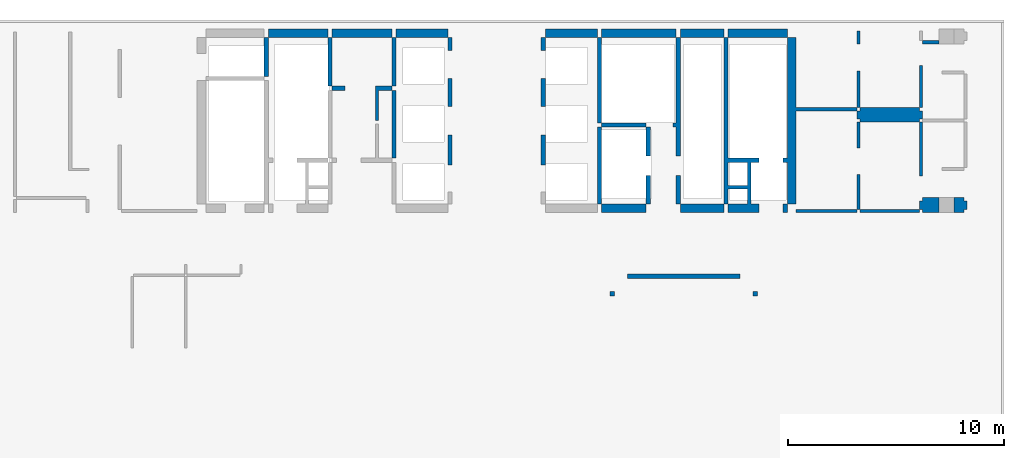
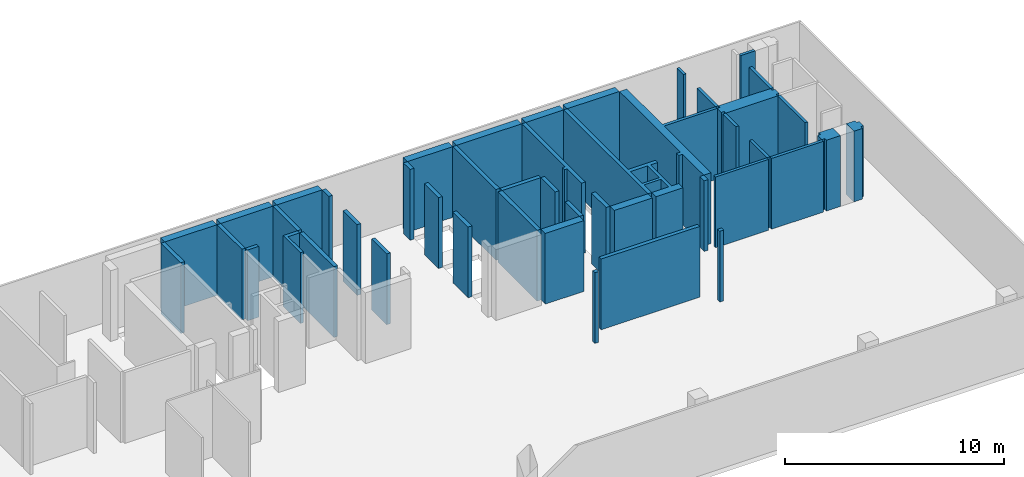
# One storey, part 2 of 4: 46 walls.
"""IFC4 building model written with IfcOpenShell, lengths in millimetres."""

from ifc_helpers import new_model, si_unit, frame, origin, place, context, project, spatial, triangles, element, save


model = new_model("IFC4")

# Units and contexts
model_context = context("Model", 3, precision=0.001, world=origin())
ifc_project = project(units=[si_unit("LENGTHUNIT", "METRE", prefix="MILLI"), si_unit("AREAUNIT", "SQUARE_METRE"), si_unit("VOLUMEUNIT", "CUBIC_METRE")], contexts=[model_context])

# Site, building, storey
site_placement = place(None, origin())
site = spatial("IfcSite", under=ifc_project, at=site_placement, Name="Site", CompositionType="ELEMENT")
building_placement = place(site_placement, origin())
building = spatial("IfcBuilding", under=site, at=building_placement, Name="INNOCEAN", CompositionType="ELEMENT")
storey_placement = place(building_placement, frame((0.0, 0.0, 51200.0)))
storey = spatial("IfcBuildingStorey", under=building, at=storey_placement, Name="F12", CompositionType="ELEMENT", Elevation=51200.0)

# Walls
wall_1_placement = place(storey_placement, origin())
element("IfcWall", 1, at=wall_1_placement, inside=storey, Name="F12_Walls_F12_022", context=model_context, shape_type="Tessellation", body=[
    triangles([(16226.2, 25025.8, 0.0), (16226.2, 23222.2, 0.0), (16226.2, 23222.2, 3950.0), (16226.2, 25025.8, 3950.0), (16429.3, 25025.8, 0.0), (16429.3, 25025.8, 3950.0), (16429.3, 23222.2, 0.0), (16429.3, 23222.2, 3950.0)], [[1, 2, 3], [1, 3, 4], [5, 1, 4], [5, 4, 6], [7, 5, 6], [7, 6, 8], [2, 7, 8], [2, 8, 3], [1, 5, 7], [1, 7, 2], [6, 4, 8], [8, 4, 3]], closed=True),
])
wall_2_placement = place(storey_placement, origin())
element("IfcWall", 2, at=wall_2_placement, inside=storey, Name="F12_Walls_F12_025", context=model_context, shape_type="Tessellation", body=[
    triangles([(19183.7, 25025.8, 0.0), (19183.7, 25419.5, 0.0), (19183.7, 25419.5, 3950.0), (19183.7, 25025.8, 3950.0), (16429.3, 25025.8, 0.0), (16429.3, 25025.8, 3950.0), (16429.3, 25419.5, 0.0), (16429.3, 25419.5, 3950.0)], [[1, 2, 3], [1, 3, 4], [5, 1, 4], [5, 4, 6], [7, 5, 6], [7, 6, 8], [2, 7, 8], [2, 8, 3], [7, 2, 1], [7, 1, 5], [3, 8, 4], [4, 8, 6]], closed=True),
])
wall_3_placement = place(storey_placement, origin())
element("IfcWall", 3, at=wall_3_placement, inside=storey, Name="F12_Walls_F12_026", context=model_context, shape_type="Tessellation", body=[
    triangles([(32422.7, 13073.9, 0.0), (32422.7, 13277.1, 0.0), (32422.7, 13277.1, 3950.0), (32422.7, 13073.9, 3950.0), (32219.6, 13073.9, 3950.0), (32219.6, 13073.9, 0.0), (32219.6, 13277.1, 0.0), (32219.6, 13277.1, 3950.0)], [[1, 2, 3], [1, 3, 4], [1, 4, 5], [6, 1, 5], [7, 6, 5], [7, 5, 8], [7, 8, 3], [2, 7, 3], [7, 2, 1], [7, 1, 6], [3, 8, 4], [4, 8, 5]], closed=True),
])
wall_4_placement = place(storey_placement, origin())
element("IfcWall", 4, at=wall_4_placement, inside=storey, Name="F12_Walls_F12_032", context=model_context, shape_type="Tessellation", body=[
    triangles([(31826.2, 20872.5, 0.0), (31826.2, 20872.5, 3950.0), (31826.2, 17316.1, 3950.0), (31826.2, 17316.1, 0.0), (31623.1, 17316.1, 3950.0), (31623.1, 17316.1, 0.0), (31623.1, 20872.5, 3950.0), (31623.1, 20872.5, 0.0)], [[1, 2, 3], [4, 1, 3], [4, 3, 5], [6, 4, 5], [6, 5, 7], [8, 6, 7], [8, 7, 2], [1, 8, 2], [8, 1, 4], [8, 4, 6], [2, 7, 3], [3, 7, 5]], closed=True),
])
wall_5_placement = place(storey_placement, origin())
element("IfcWall", 5, at=wall_5_placement, inside=storey, Name="F12_Walls_F12_035", context=model_context, shape_type="Tessellation", body=[
    triangles([(29224.0, 20516.8, 0.0), (29224.0, 20516.8, 3950.0), (29224.0, 20515.0, 3950.0), (29224.0, 20515.0, 0.0), (29225.0, 20515.0, 0.0), (29225.0, 20515.0, 3950.0), (29225.0, 19120.0, 0.0), (29225.0, 19120.0, 3950.0), (29224.0, 19120.0, 0.0), (29224.0, 19120.0, 3950.0), (29224.0, 19119.7, 0.0), (29224.0, 19119.7, 3950.0), (29020.9, 19119.7, 0.0), (29020.9, 19119.7, 3950.0), (29020.9, 19120.0, 0.0), (29020.9, 19120.0, 3950.0), (29020.0, 19120.0, 0.0), (29020.0, 19120.0, 3950.0), (29020.0, 20515.0, 0.0), (29020.0, 20515.0, 3950.0), (29020.9, 20515.0, 0.0), (29020.9, 20515.0, 3950.0), (29020.9, 20516.8, 3950.0), (29020.9, 20516.8, 0.0)], [[1, 2, 3], [4, 1, 3], [5, 4, 3], [5, 3, 6], [7, 5, 6], [7, 6, 8], [9, 7, 8], [9, 8, 10], [11, 9, 10], [11, 10, 12], [13, 11, 12], [13, 12, 14], [15, 13, 14], [15, 14, 16], [17, 15, 16], [17, 16, 18], [19, 17, 18], [19, 18, 20], [21, 19, 20], [21, 20, 22], [21, 22, 23], [24, 21, 23], [1, 24, 23], [1, 23, 2], [15, 9, 11], [15, 11, 13], [4, 5, 7], [4, 7, 9], [4, 9, 15], [21, 4, 15], [19, 15, 17], [19, 21, 15], [24, 1, 4], [24, 4, 21], [10, 16, 12], [12, 16, 14], [6, 3, 8], [8, 3, 10], [10, 3, 16], [3, 22, 16], [16, 20, 18], [22, 20, 16], [2, 23, 3], [3, 23, 22]], closed=True),
])
wall_6_placement = place(storey_placement, origin())
element("IfcWall", 6, at=wall_6_placement, inside=storey, Name="F12_Walls_F12_036", context=model_context, shape_type="Tessellation", body=[
    triangles([(24730.0, 20515.0, 0.0), (24730.0, 19120.0, 0.0), (24730.0, 19120.0, 3950.0), (24730.0, 20515.0, 3950.0), (24730.6, 20515.0, 0.0), (24730.6, 20515.0, 3950.0), (24730.6, 20516.8, 3950.0), (24730.6, 20516.8, 0.0), (24921.0, 20516.8, 0.0), (24921.0, 20516.8, 3950.0), (24921.0, 19119.7, 0.0), (24921.0, 19119.7, 3950.0), (24730.6, 19119.7, 0.0), (24730.6, 19119.7, 3950.0), (24730.6, 19120.0, 0.0), (24730.6, 19120.0, 3950.0)], [[1, 2, 3], [1, 3, 4], [5, 1, 4], [5, 4, 6], [5, 6, 7], [8, 5, 7], [9, 8, 7], [9, 7, 10], [11, 9, 10], [11, 10, 12], [13, 11, 12], [13, 12, 14], [15, 13, 14], [15, 14, 16], [2, 15, 16], [2, 16, 3], [15, 11, 13], [5, 9, 11], [5, 11, 15], [1, 15, 2], [1, 5, 15], [8, 9, 5], [12, 16, 14], [10, 6, 12], [12, 6, 16], [16, 4, 3], [6, 4, 16], [10, 7, 6]], closed=True),
])
wall_7_placement = place(storey_placement, origin())
element("IfcWall", 7, at=wall_7_placement, inside=storey, Name="F12_Walls_F12_038", context=model_context, shape_type="Tessellation", body=[
    triangles([(22331.6, 19449.9, 0.0), (22331.6, 22574.4, 0.0), (22331.6, 22574.4, 3950.0), (22331.6, 19449.9, 3950.0), (22128.5, 19449.9, 0.0), (22128.5, 19449.9, 3950.0), (22128.5, 22574.4, 0.0), (22128.5, 22574.4, 3950.0)], [[1, 2, 3], [1, 3, 4], [5, 1, 4], [5, 4, 6], [7, 5, 6], [7, 6, 8], [2, 7, 8], [2, 8, 3], [2, 1, 5], [7, 2, 5], [4, 3, 6], [3, 8, 6]], closed=True),
])
wall_8_placement = place(storey_placement, origin())
element("IfcWall", 8, at=wall_8_placement, inside=storey, Name="F12_Walls_F12_039", context=model_context, shape_type="Tessellation", body=[
    triangles([(22128.5, 22765.0, 0.0), (21366.9, 22765.0, 0.0), (21366.9, 22765.0, 3950.0), (22128.5, 22765.0, 3950.0), (22128.5, 22574.4, 3950.0), (22128.5, 22574.4, 0.0), (21519.3, 22574.4, 0.0), (21519.3, 22574.4, 3950.0), (21519.3, 21177.3, 0.0), (21519.3, 21177.3, 3950.0), (21366.9, 21177.3, 0.0), (21366.9, 21177.3, 3950.0), (21366.9, 22574.4, 0.0), (21366.9, 22574.4, 3950.0)], [[1, 2, 3], [1, 3, 4], [1, 4, 5], [6, 1, 5], [7, 6, 5], [7, 5, 8], [9, 7, 8], [9, 8, 10], [11, 9, 10], [11, 10, 12], [13, 11, 12], [13, 12, 14], [13, 14, 3], [2, 13, 3], [7, 1, 6], [13, 7, 9], [13, 9, 11], [2, 1, 7], [2, 7, 13], [4, 8, 5], [8, 14, 10], [10, 14, 12], [4, 3, 8], [8, 3, 14]], closed=True),
])
wall_9_placement = place(storey_placement, origin())
element("IfcWall", 9, at=wall_9_placement, inside=storey, Name="F12_Walls_F12_040", context=model_context, shape_type="Tessellation", body=[
    triangles([(24920.0, 21825.0, 0.0), (24920.0, 21825.1, 0.0), (24920.0, 21825.1, 3950.0), (24920.0, 21825.0, 3950.0), (24730.0, 21825.0, 0.0), (24730.0, 21825.0, 3950.0), (24730.0, 23120.0, 3950.0), (24730.0, 23120.0, 0.0), (24730.6, 23120.0, 0.0), (24730.6, 23120.0, 3950.0), (24730.6, 23120.6, 0.0), (24730.6, 23120.6, 3950.0), (24921.0, 23120.6, 0.0), (24921.0, 23120.6, 3950.0), (24921.0, 21825.1, 0.0), (24921.0, 21825.1, 3950.0)], [[1, 2, 3], [1, 3, 4], [5, 1, 4], [5, 4, 6], [5, 6, 7], [8, 5, 7], [9, 8, 7], [9, 7, 10], [11, 9, 10], [11, 10, 12], [13, 11, 12], [13, 12, 14], [15, 13, 14], [15, 14, 16], [2, 15, 16], [2, 16, 3], [5, 2, 1], [13, 15, 2], [9, 13, 2], [9, 2, 5], [8, 9, 5], [11, 13, 9], [3, 6, 4], [16, 14, 3], [14, 10, 3], [3, 10, 6], [10, 7, 6], [14, 12, 10]], closed=True),
])
wall_10_placement = place(storey_placement, origin())
element("IfcWall", 10, at=wall_10_placement, inside=storey, Name="F12_Walls_F12_041", context=model_context, shape_type="Tessellation", body=[
    triangles([(29020.9, 23120.6, 0.0), (29020.9, 23120.0, 0.0), (29020.9, 23120.0, 3950.0), (29020.9, 23120.6, 3950.0), (29224.0, 23120.6, 0.0), (29224.0, 23120.6, 3950.0), (29224.0, 23120.0, 0.0), (29224.0, 23120.0, 3950.0), (29225.0, 23120.0, 0.0), (29225.0, 23120.0, 3950.0), (29225.0, 21825.0, 3950.0), (29225.0, 21825.0, 0.0), (29020.0, 21825.0, 0.0), (29020.0, 21825.0, 3950.0), (29020.0, 23120.0, 3950.0), (29020.0, 23120.0, 0.0)], [[1, 2, 3], [1, 3, 4], [5, 1, 4], [5, 4, 6], [7, 5, 6], [7, 6, 8], [9, 7, 8], [9, 8, 10], [9, 10, 11], [12, 9, 11], [13, 12, 11], [13, 11, 14], [13, 14, 15], [16, 13, 15], [2, 16, 15], [2, 15, 3], [7, 9, 12], [7, 12, 13], [2, 7, 13], [1, 5, 7], [1, 7, 2], [16, 2, 13], [10, 8, 11], [11, 8, 14], [8, 3, 14], [6, 4, 8], [8, 4, 3], [3, 15, 14]], closed=True),
])
wall_11_placement = place(storey_placement, origin())
element("IfcWall", 11, at=wall_11_placement, inside=storey, Name="F12_Walls_F12_042", context=model_context, shape_type="Tessellation", body=[
    triangles([(19970.7, 22765.0, 0.0), (19970.7, 22765.0, 3950.0), (19970.7, 22574.4, 3950.0), (19970.7, 22574.4, 0.0), (19374.1, 22574.4, 0.0), (19374.1, 22574.4, 3950.0), (19374.1, 22765.0, 3950.0), (19374.1, 22765.0, 0.0)], [[1, 2, 3], [4, 1, 3], [5, 4, 3], [5, 3, 6], [5, 6, 7], [8, 5, 7], [1, 8, 7], [1, 7, 2], [8, 1, 4], [8, 4, 5], [2, 7, 3], [3, 7, 6]], closed=True),
])
wall_12_placement = place(storey_placement, origin())
element("IfcWall", 12, at=wall_12_placement, inside=storey, Name="F12_Walls_F12_043", context=model_context, shape_type="Tessellation", body=[
    triangles([(31826.2, 21075.7, 3950.0), (31826.2, 25025.8, 0.0), (31826.2, 25025.8, 3950.0), (31826.2, 21075.7, 0.0), (31623.1, 21075.7, 3950.0), (31623.1, 21075.7, 0.0), (31623.1, 25025.8, 3950.0), (31623.1, 25025.8, 0.0)], [[1, 2, 3], [4, 2, 1], [4, 1, 5], [6, 4, 5], [7, 6, 5], [8, 6, 7], [8, 7, 3], [2, 8, 3], [2, 4, 6], [8, 2, 6], [1, 3, 5], [3, 7, 5]], closed=True),
])
wall_13_placement = place(storey_placement, origin())
element("IfcWall", 13, at=wall_13_placement, inside=storey, Name="F12_Walls_F12_044", context=model_context, shape_type="Tessellation", body=[
    triangles([(19374.1, 22765.0, 0.0), (19374.1, 25025.8, 0.0), (19374.1, 25025.8, 3950.0), (19374.1, 22765.0, 3950.0), (19183.7, 22765.0, 0.0), (19183.7, 22765.0, 3950.0), (19183.7, 25025.8, 0.0), (19183.7, 25025.8, 3950.0)], [[1, 2, 3], [1, 3, 4], [5, 1, 4], [5, 4, 6], [7, 5, 6], [7, 6, 8], [2, 7, 8], [2, 8, 3], [7, 2, 1], [7, 1, 5], [3, 8, 4], [4, 8, 6]], closed=True),
])
wall_14_placement = place(storey_placement, origin())
element("IfcWall", 14, at=wall_14_placement, inside=storey, Name="F12_Walls_F12_045", context=model_context, shape_type="Tessellation", body=[
    triangles([(22331.6, 22765.0, 0.0), (22331.6, 25025.8, 0.0), (22331.6, 25025.8, 3950.0), (22331.6, 22765.0, 3950.0), (22128.5, 22765.0, 0.0), (22128.5, 22765.0, 3950.0), (22128.5, 25025.8, 0.0), (22128.5, 25025.8, 3950.0)], [[1, 2, 3], [1, 3, 4], [5, 1, 4], [5, 4, 6], [7, 5, 6], [7, 6, 8], [2, 7, 8], [2, 8, 3], [7, 2, 1], [7, 1, 5], [3, 8, 4], [4, 8, 6]], closed=True),
])
wall_15_placement = place(storey_placement, origin())
element("IfcWall", 15, at=wall_15_placement, inside=storey, Name="F12_Walls_F12_046", context=model_context, shape_type="Tessellation", body=[
    triangles([(24921.0, 24416.1, 0.0), (24921.0, 25025.8, 0.0), (24921.0, 25025.8, 3950.0), (24921.0, 24416.1, 3950.0), (24730.6, 24416.1, 0.0), (24730.6, 24416.1, 3950.0), (24730.6, 25025.8, 0.0), (24730.6, 25025.8, 3950.0)], [[1, 2, 3], [1, 3, 4], [5, 1, 4], [5, 4, 6], [7, 5, 6], [7, 6, 8], [2, 7, 8], [2, 8, 3], [7, 2, 1], [7, 1, 5], [3, 8, 4], [4, 8, 6]], closed=True),
])
wall_16_placement = place(storey_placement, origin())
element("IfcWall", 16, at=wall_16_placement, inside=storey, Name="F12_Walls_F12_047", context=model_context, shape_type="Tessellation", body=[
    triangles([(29020.9, 24416.1, 0.0), (29224.0, 24416.1, 0.0), (29224.0, 24416.1, 3950.0), (29020.9, 24416.1, 3950.0), (29020.9, 25025.8, 0.0), (29020.9, 25025.8, 3950.0), (29224.0, 25025.8, 0.0), (29224.0, 25025.8, 3950.0)], [[1, 2, 3], [1, 3, 4], [5, 1, 4], [5, 4, 6], [7, 5, 6], [7, 6, 8], [2, 7, 8], [2, 8, 3], [5, 2, 1], [5, 7, 2], [3, 6, 4], [8, 6, 3]], closed=True),
])
wall_17_placement = place(storey_placement, origin())
element("IfcWall", 17, at=wall_17_placement, inside=storey, Name="F12_Walls_F12_048", context=model_context, shape_type="Tessellation", body=[
    triangles([(19374.1, 25025.8, 0.0), (22128.5, 25025.8, 0.0), (22128.5, 25025.8, 3950.0), (19374.1, 25025.8, 3950.0), (19374.1, 25419.5, 0.0), (19374.1, 25419.5, 3950.0), (22128.5, 25419.5, 0.0), (22128.5, 25419.5, 3950.0)], [[1, 2, 3], [1, 3, 4], [5, 1, 4], [5, 4, 6], [7, 5, 6], [7, 6, 8], [2, 7, 8], [2, 8, 3], [5, 2, 1], [5, 7, 2], [3, 6, 4], [8, 6, 3]], closed=True),
])
wall_18_placement = place(storey_placement, origin())
element("IfcWall", 18, at=wall_18_placement, inside=storey, Name="F12_Walls_F12_049", context=model_context, shape_type="Tessellation", body=[
    triangles([(24730.6, 25025.8, 0.0), (24730.6, 25419.5, 0.0), (24730.6, 25419.5, 3950.0), (24730.6, 25025.8, 3950.0), (22331.6, 25025.8, 0.0), (22331.6, 25025.8, 3950.0), (22331.6, 25419.5, 0.0), (22331.6, 25419.5, 3950.0)], [[1, 2, 3], [1, 3, 4], [5, 1, 4], [5, 4, 6], [7, 5, 6], [7, 6, 8], [2, 7, 8], [2, 8, 3], [7, 2, 1], [7, 1, 5], [3, 8, 4], [4, 8, 6]], closed=True),
])
wall_19_placement = place(storey_placement, origin())
element("IfcWall", 19, at=wall_19_placement, inside=storey, Name="F12_Walls_F12_050", context=model_context, shape_type="Tessellation", body=[
    triangles([(31623.1, 25025.8, 0.0), (31623.1, 25419.5, 0.0), (31623.1, 25419.5, 3950.0), (31623.1, 25025.8, 3950.0), (29224.0, 25025.8, 0.0), (29224.0, 25025.8, 3950.0), (29224.0, 25419.5, 0.0), (29224.0, 25419.5, 3950.0)], [[1, 2, 3], [1, 3, 4], [5, 1, 4], [5, 4, 6], [7, 5, 6], [7, 6, 8], [2, 7, 8], [2, 8, 3], [7, 2, 1], [7, 1, 5], [3, 8, 4], [4, 8, 6]], closed=True),
])
wall_20_placement = place(storey_placement, origin())
element("IfcWall", 20, at=wall_20_placement, inside=storey, Name="F12_Walls_F12_051", context=model_context, shape_type="Tessellation", body=[
    triangles([(39023.2, 13073.9, 0.0), (39023.2, 13277.1, 0.0), (39023.2, 13277.1, 3950.0), (39023.2, 13073.9, 3950.0), (38820.1, 13073.9, 0.0), (38820.1, 13073.9, 3950.0), (38820.1, 13277.1, 0.0), (38820.1, 13277.1, 3950.0)], [[1, 2, 3], [1, 3, 4], [5, 1, 4], [5, 4, 6], [7, 5, 6], [7, 6, 8], [2, 7, 8], [2, 8, 3], [2, 1, 5], [7, 2, 5], [4, 3, 6], [3, 8, 6]], closed=True),
])
wall_21_placement = place(storey_placement, origin())
element("IfcWall", 21, at=wall_21_placement, inside=storey, Name="F12_Walls_F12_052", context=model_context, shape_type="Tessellation", body=[
    triangles([(38223.5, 13874.1, 0.0), (38223.5, 14077.3, 0.0), (38223.5, 14077.3, 3950.0), (38223.5, 13874.1, 3950.0), (33019.3, 13874.1, 0.0), (33019.3, 13874.1, 3950.0), (33019.3, 14077.3, 0.0), (33019.3, 14077.3, 3950.0)], [[1, 2, 3], [1, 3, 4], [5, 1, 4], [5, 4, 6], [7, 5, 6], [7, 6, 8], [2, 7, 8], [2, 8, 3], [7, 2, 1], [7, 1, 5], [3, 8, 4], [4, 8, 6]], closed=True),
])
wall_22_placement = place(storey_placement, origin())
element("IfcWall", 22, at=wall_22_placement, inside=storey, Name="F12_Walls_F12_053", context=model_context, shape_type="Tessellation", body=[
    triangles([(43618.2, 16922.4, 0.0), (43618.2, 17074.8, 0.0), (43618.2, 17074.8, 3950.0), (43618.2, 16922.4, 3950.0), (40813.0, 16922.4, 0.0), (40813.0, 16922.4, 3950.0), (40813.0, 17074.8, 0.0), (40813.0, 17074.8, 3950.0)], [[1, 2, 3], [1, 3, 4], [5, 1, 4], [5, 4, 6], [7, 5, 6], [7, 6, 8], [2, 7, 8], [2, 8, 3], [5, 2, 1], [7, 2, 5], [3, 6, 4], [3, 8, 6]], closed=True),
])
wall_23_placement = place(storey_placement, origin())
element("IfcWall", 23, at=wall_23_placement, inside=storey, Name="F12_Walls_F12_054", context=model_context, shape_type="Tessellation", body=[
    triangles([(33869.8, 17316.1, 0.0), (33869.8, 17316.1, 3950.0), (33869.8, 16922.4, 3950.0), (33869.8, 16922.4, 0.0), (31826.2, 16922.4, 0.0), (31826.2, 16922.4, 3950.0), (31826.2, 17316.1, 3950.0), (31826.2, 17316.1, 0.0)], [[1, 2, 3], [4, 1, 3], [5, 4, 3], [5, 3, 6], [5, 6, 7], [8, 5, 7], [1, 8, 7], [1, 7, 2], [8, 1, 4], [8, 4, 5], [2, 7, 3], [3, 7, 6]], closed=True),
])
wall_24_placement = place(storey_placement, origin())
element("IfcWall", 24, at=wall_24_placement, inside=storey, Name="F12_Walls_F12_055", context=model_context, shape_type="Tessellation", body=[
    triangles([(40419.5, 17316.1, 0.0), (40419.5, 17316.1, 3950.0), (40419.5, 16922.4, 3950.0), (40419.5, 16922.4, 0.0), (40216.4, 16922.4, 0.0), (40216.4, 16922.4, 3950.0), (40216.4, 17316.1, 3950.0), (40216.4, 17316.1, 0.0)], [[1, 2, 3], [4, 1, 3], [5, 4, 3], [5, 3, 6], [5, 6, 7], [8, 5, 7], [1, 8, 7], [1, 7, 2], [8, 1, 4], [8, 4, 5], [2, 7, 3], [3, 7, 6]], closed=True),
])
wall_25_placement = place(storey_placement, origin())
element("IfcWall", 25, at=wall_25_placement, inside=storey, Name="F12_Walls_F12_056", context=model_context, shape_type="Tessellation", body=[
    triangles([(37474.6, 17316.1, 0.0), (37474.6, 17316.1, 3950.0), (37474.6, 16922.4, 3950.0), (37474.6, 16922.4, 0.0), (35469.1, 16922.4, 0.0), (35469.1, 16922.4, 3950.0), (35469.1, 17316.1, 3950.0), (35469.1, 17316.1, 0.0)], [[1, 2, 3], [4, 1, 3], [5, 4, 3], [5, 3, 6], [5, 6, 7], [8, 5, 7], [1, 8, 7], [1, 7, 2], [8, 1, 4], [8, 4, 5], [2, 7, 3], [3, 7, 6]], closed=True),
])
wall_26_placement = place(storey_placement, origin())
element("IfcWall", 26, at=wall_26_placement, inside=storey, Name="F12_Walls_F12_057", context=model_context, shape_type="Tessellation", body=[
    triangles([(37474.6, 19449.9, 0.0), (37474.6, 17316.1, 0.0), (37474.6, 17316.1, 3950.0), (37474.6, 19449.9, 3950.0), (37665.0, 17316.1, 0.0), (37665.0, 17316.1, 3950.0), (37665.0, 16922.4, 0.0), (37665.0, 16922.4, 3950.0), (39099.4, 16922.4, 0.0), (39099.4, 16922.4, 3950.0), (39099.4, 17316.1, 0.0), (39099.4, 17316.1, 3950.0), (38720.0, 17316.1, 0.0), (38720.0, 17316.1, 3950.0), (38720.0, 19245.0, 0.0), (38720.0, 19245.0, 3950.0), (39100.0, 19245.0, 0.0), (39100.0, 19245.0, 3950.0), (39100.0, 19450.0, 0.0), (39100.0, 19450.0, 3950.0), (37665.0, 19450.0, 0.0), (37665.0, 19450.0, 3950.0), (37665.0, 25025.8, 0.0), (37665.0, 25025.8, 3950.0), (37474.6, 25025.8, 0.0), (37474.6, 25025.8, 3950.0), (37665.0, 18014.7, 0.0), (37665.0, 18014.7, 3950.0), (38565.0, 18014.7, 0.0), (38565.0, 18014.7, 3950.0), (38565.0, 17316.1, 0.0), (38565.0, 17316.1, 3950.0), (37665.0, 19245.0, 0.0), (38565.0, 19245.0, 0.0), (38565.0, 19245.0, 3950.0), (37665.0, 19245.0, 3950.0), (38565.0, 18167.1, 0.0), (38565.0, 18167.1, 3950.0), (37665.0, 18167.1, 0.0), (37665.0, 18167.1, 3950.0)], [[1, 2, 3], [1, 3, 4], [2, 5, 6], [2, 6, 3], [7, 8, 6], [5, 7, 6], [7, 9, 10], [7, 10, 8], [11, 12, 10], [9, 11, 10], [11, 13, 14], [11, 14, 12], [13, 15, 16], [13, 16, 14], [17, 18, 16], [15, 17, 16], [17, 19, 20], [17, 20, 18], [19, 21, 22], [19, 22, 20], [21, 23, 24], [21, 24, 22], [23, 25, 26], [23, 26, 24], [25, 1, 4], [25, 4, 26], [5, 27, 28], [5, 28, 6], [27, 29, 30], [27, 30, 28], [29, 31, 32], [29, 32, 30], [31, 5, 6], [31, 6, 32], [33, 34, 35], [33, 35, 36], [34, 37, 38], [34, 38, 35], [37, 39, 40], [37, 40, 38], [39, 33, 36], [39, 36, 40], [13, 11, 9], [31, 13, 9], [7, 31, 9], [29, 13, 31], [5, 31, 7], [27, 5, 2], [39, 29, 27], [39, 37, 29], [39, 27, 2], [15, 19, 17], [34, 15, 37], [34, 19, 15], [21, 34, 33], [21, 19, 34], [1, 33, 39], [1, 21, 33], [1, 39, 2], [25, 23, 21], [25, 21, 1], [15, 13, 29], [15, 29, 37], [12, 14, 10], [14, 32, 10], [32, 8, 10], [14, 30, 32], [32, 6, 8], [6, 28, 3], [30, 40, 28], [38, 40, 30], [28, 40, 3], [20, 16, 18], [16, 35, 38], [20, 35, 16], [35, 22, 36], [20, 22, 35], [36, 4, 40], [22, 4, 36], [40, 4, 3], [24, 26, 22], [22, 26, 4], [14, 16, 30], [30, 16, 38]], closed=True),
])
wall_27_placement = place(storey_placement, origin())
element("IfcWall", 27, at=wall_27_placement, inside=storey, Name="F12_Walls_F12_058", context=model_context, shape_type="Tessellation", body=[
    triangles([(43770.5, 17074.8, 0.0), (43770.5, 18675.1, 0.0), (43770.5, 18675.1, 3950.0), (43770.5, 17074.8, 3950.0), (43618.2, 17074.8, 0.0), (43618.2, 17074.8, 3950.0), (43618.2, 18675.1, 0.0), (43618.2, 18675.1, 3950.0)], [[1, 2, 3], [1, 3, 4], [5, 1, 4], [5, 4, 6], [7, 5, 6], [7, 6, 8], [2, 7, 8], [2, 8, 3], [2, 1, 5], [7, 2, 5], [4, 3, 6], [3, 8, 6]], closed=True),
])
wall_28_placement = place(storey_placement, origin())
element("IfcWall", 28, at=wall_28_placement, inside=storey, Name="F12_Walls_F12_059", context=model_context, shape_type="Tessellation", body=[
    triangles([(34072.9, 17316.1, 0.0), (34072.9, 18649.7, 0.0), (34072.9, 18649.7, 3950.0), (34072.9, 17316.1, 3950.0), (33869.8, 17316.1, 0.0), (33869.8, 17316.1, 3950.0), (33869.8, 18649.7, 0.0), (33869.8, 18649.7, 3950.0)], [[1, 2, 3], [1, 3, 4], [5, 1, 4], [5, 4, 6], [7, 5, 6], [7, 6, 8], [2, 7, 8], [2, 8, 3], [7, 2, 1], [7, 1, 5], [3, 8, 4], [4, 8, 6]], closed=True),
])
wall_29_placement = place(storey_placement, origin())
element("IfcWall", 29, at=wall_29_placement, inside=storey, Name="F12_Walls_F12_060", context=model_context, shape_type="Tessellation", body=[
    triangles([(35469.1, 17316.1, 0.0), (35469.1, 18649.7, 0.0), (35469.1, 18649.7, 3950.0), (35469.1, 17316.1, 3950.0), (35266.0, 17316.1, 0.0), (35266.0, 17316.1, 3950.0), (35266.0, 18649.7, 0.0), (35266.0, 18649.7, 3950.0)], [[1, 2, 3], [1, 3, 4], [5, 1, 4], [5, 4, 6], [7, 5, 6], [7, 6, 8], [2, 7, 8], [2, 8, 3], [7, 2, 1], [7, 1, 5], [3, 8, 4], [4, 8, 6]], closed=True),
])
wall_30_placement = place(storey_placement, origin())
element("IfcWall", 30, at=wall_30_placement, inside=storey, Name="F12_Walls_F12_061", context=model_context, shape_type="Tessellation", body=[
    triangles([(40813.0, 21774.3, 0.0), (40813.0, 25025.8, 0.0), (40813.0, 25025.8, 3950.0), (40813.0, 21774.3, 3950.0), (43618.2, 21774.3, 0.0), (43618.2, 21774.3, 3950.0), (43618.2, 21621.8, 0.0), (43618.2, 21621.8, 3950.0), (40813.0, 21621.8, 0.0), (40813.0, 21621.8, 3950.0), (40813.0, 19449.9, 0.0), (40813.0, 19449.9, 3950.0), (40813.0, 17316.1, 0.0), (40813.0, 17316.1, 3950.0), (40419.5, 17316.1, 0.0), (40419.5, 17316.1, 3950.0), (40419.5, 19245.0, 0.0), (40419.5, 19245.0, 3950.0), (40215.0, 19245.0, 3950.0), (40215.0, 19245.0, 0.0), (40215.0, 19450.0, 0.0), (40215.0, 19450.0, 3950.0), (40419.5, 19450.0, 3950.0), (40419.5, 19450.0, 0.0), (40419.5, 25025.8, 0.0), (40419.5, 25025.8, 3950.0)], [[1, 2, 3], [1, 3, 4], [5, 1, 4], [5, 4, 6], [7, 5, 6], [7, 6, 8], [9, 7, 8], [9, 8, 10], [11, 9, 10], [11, 10, 12], [13, 11, 12], [13, 12, 14], [15, 13, 14], [15, 14, 16], [17, 15, 16], [17, 16, 18], [17, 18, 19], [20, 17, 19], [21, 20, 19], [21, 19, 22], [21, 22, 23], [24, 21, 23], [25, 24, 23], [25, 23, 26], [2, 25, 26], [2, 26, 3], [17, 11, 13], [17, 13, 15], [24, 17, 20], [24, 11, 17], [21, 24, 20], [9, 11, 24], [1, 5, 7], [1, 7, 9], [25, 2, 1], [24, 25, 1], [24, 1, 9], [12, 18, 14], [14, 18, 16], [18, 23, 19], [12, 23, 18], [23, 22, 19], [12, 10, 23], [6, 4, 8], [8, 4, 10], [3, 26, 4], [26, 23, 4], [4, 23, 10]], closed=True),
])
wall_31_placement = place(storey_placement, origin())
element("IfcWall", 31, at=wall_31_placement, inside=storey, Name="F12_Walls_F12_062", context=model_context, shape_type="Tessellation", body=[
    triangles([(34072.9, 19551.5, 0.0), (34072.9, 20872.5, 0.0), (34072.9, 20872.5, 3950.0), (34072.9, 19551.5, 3950.0), (33869.8, 19551.5, 0.0), (33869.8, 19551.5, 3950.0), (33869.8, 20872.5, 0.0), (33869.8, 20872.5, 3950.0)], [[1, 2, 3], [1, 3, 4], [5, 1, 4], [5, 4, 6], [7, 5, 6], [7, 6, 8], [2, 7, 8], [2, 8, 3], [7, 2, 1], [7, 1, 5], [3, 8, 4], [4, 8, 6]], closed=True),
])
wall_32_placement = place(storey_placement, origin())
element("IfcWall", 32, at=wall_32_placement, inside=storey, Name="F12_Walls_F12_063", context=model_context, shape_type="Tessellation", body=[
    triangles([(35469.1, 21075.7, 3950.0), (35469.1, 25025.8, 0.0), (35469.1, 25025.8, 3950.0), (35469.1, 21075.7, 0.0), (35469.1, 20872.5, 0.0), (35469.1, 20872.5, 3950.0), (35469.1, 19551.5, 0.0), (35469.1, 19551.5, 3950.0), (35266.0, 19551.5, 0.0), (35266.0, 19551.5, 3950.0), (35266.0, 20872.5, 0.0), (35266.0, 20872.5, 3950.0), (35126.4, 20872.5, 0.0), (35126.4, 20872.5, 3950.0), (35126.4, 21075.7, 0.0), (35126.4, 21075.7, 3950.0), (35266.0, 21075.7, 0.0), (35266.0, 21075.7, 3950.0), (35266.0, 25025.8, 3950.0), (35266.0, 25025.8, 0.0)], [[1, 2, 3], [4, 2, 1], [5, 4, 1], [5, 1, 6], [7, 5, 6], [7, 6, 8], [9, 7, 8], [9, 8, 10], [11, 9, 10], [11, 10, 12], [13, 11, 12], [13, 12, 14], [15, 13, 14], [15, 14, 16], [17, 15, 16], [17, 16, 18], [19, 17, 18], [20, 17, 19], [2, 20, 19], [2, 19, 3], [11, 5, 7], [11, 7, 9], [4, 5, 11], [17, 4, 11], [15, 11, 13], [15, 17, 11], [20, 2, 4], [20, 4, 17], [6, 12, 8], [8, 12, 10], [6, 1, 12], [1, 18, 12], [12, 16, 14], [18, 16, 12], [3, 19, 1], [1, 19, 18]], closed=True),
])
wall_33_placement = place(storey_placement, origin())
element("IfcWall", 33, at=wall_33_placement, inside=storey, Name="F12_Walls_F12_064", context=model_context, shape_type="Tessellation", body=[
    triangles([(33869.8, 20872.5, 0.0), (33869.8, 21075.7, 0.0), (33869.8, 21075.7, 3950.0), (33869.8, 20872.5, 3950.0), (31826.2, 20872.5, 0.0), (31826.2, 20872.5, 3950.0), (31826.2, 21075.7, 0.0), (31826.2, 21075.7, 3950.0)], [[1, 2, 3], [1, 3, 4], [5, 1, 4], [5, 4, 6], [7, 5, 6], [7, 6, 8], [2, 7, 8], [2, 8, 3], [7, 2, 1], [7, 1, 5], [3, 8, 4], [4, 8, 6]], closed=True),
])
wall_34_placement = place(storey_placement, origin())
element("IfcWall", 34, at=wall_34_placement, inside=storey, Name="F12_Walls_F12_065", context=model_context, shape_type="Tessellation", body=[
    triangles([(43620.0, 25320.0, 0.0), (43620.0, 25320.0, 3950.0), (43770.0, 25320.0, 3950.0), (43770.0, 25320.0, 0.0), (43770.0, 25317.9, 0.0), (43770.0, 25317.9, 3950.0), (43770.5, 25317.9, 0.0), (43770.5, 25317.9, 3950.0), (43770.5, 24721.0, 0.0), (43770.5, 24721.0, 3950.0), (43770.0, 24721.0, 0.0), (43770.0, 24721.0, 3950.0), (43770.0, 24720.0, 0.0), (43770.0, 24720.0, 3950.0), (43620.0, 24720.0, 3950.0), (43620.0, 24720.0, 0.0), (43620.0, 24721.0, 0.0), (43620.0, 24721.0, 3950.0), (43618.2, 24721.0, 3950.0), (43618.2, 24721.0, 0.0), (43618.2, 25317.9, 0.0), (43618.2, 25317.9, 3950.0), (43620.0, 25317.9, 3950.0), (43620.0, 25317.9, 0.0)], [[1, 2, 3], [4, 1, 3], [5, 4, 3], [5, 3, 6], [7, 5, 6], [7, 6, 8], [9, 7, 8], [9, 8, 10], [11, 9, 10], [11, 10, 12], [13, 11, 12], [13, 12, 14], [13, 14, 15], [16, 13, 15], [17, 16, 15], [17, 15, 18], [17, 18, 19], [20, 17, 19], [21, 20, 19], [21, 19, 22], [21, 22, 23], [24, 21, 23], [1, 24, 23], [1, 23, 2], [17, 11, 13], [17, 13, 16], [7, 9, 11], [5, 7, 11], [5, 11, 17], [24, 5, 17], [21, 17, 20], [21, 24, 17], [1, 4, 5], [1, 5, 24], [12, 18, 14], [14, 18, 15], [10, 8, 12], [8, 6, 12], [12, 6, 18], [6, 23, 18], [18, 22, 19], [23, 22, 18], [3, 2, 6], [6, 2, 23]], closed=True),
])
wall_35_placement = place(storey_placement, origin())
element("IfcWall", 35, at=wall_35_placement, inside=storey, Name="F12_Walls_F12_066", context=model_context, shape_type="Tessellation", body=[
    triangles([(40419.5, 25025.8, 0.0), (40419.5, 25419.5, 0.0), (40419.5, 25419.5, 3950.0), (40419.5, 25025.8, 3950.0), (37665.0, 25025.8, 0.0), (37665.0, 25025.8, 3950.0), (37665.0, 25419.5, 0.0), (37665.0, 25419.5, 3950.0)], [[1, 2, 3], [1, 3, 4], [5, 1, 4], [5, 4, 6], [7, 5, 6], [7, 6, 8], [2, 7, 8], [2, 8, 3], [7, 2, 1], [7, 1, 5], [3, 8, 4], [4, 8, 6]], closed=True),
])
wall_36_placement = place(storey_placement, origin())
element("IfcWall", 36, at=wall_36_placement, inside=storey, Name="F12_Walls_F12_067", context=model_context, shape_type="Tessellation", body=[
    triangles([(37474.6, 25025.8, 0.0), (37474.6, 25419.5, 0.0), (37474.6, 25419.5, 3950.0), (37474.6, 25025.8, 3950.0), (35469.1, 25025.8, 0.0), (35469.1, 25025.8, 3950.0), (35469.1, 25419.5, 0.0), (35469.1, 25419.5, 3950.0)], [[1, 2, 3], [1, 3, 4], [5, 1, 4], [5, 4, 6], [7, 5, 6], [7, 6, 8], [2, 7, 8], [2, 8, 3], [7, 2, 1], [7, 1, 5], [3, 8, 4], [4, 8, 6]], closed=True),
])
wall_37_placement = place(storey_placement, origin())
element("IfcWall", 37, at=wall_37_placement, inside=storey, Name="F12_Walls_F12_068", context=model_context, shape_type="Tessellation", body=[
    triangles([(35266.0, 25025.8, 0.0), (35266.0, 25419.5, 0.0), (35266.0, 25419.5, 3950.0), (35266.0, 25025.8, 3950.0), (31826.2, 25025.8, 0.0), (31826.2, 25025.8, 3950.0), (31826.2, 25419.5, 0.0), (31826.2, 25419.5, 3950.0)], [[1, 2, 3], [1, 3, 4], [5, 1, 4], [5, 4, 6], [7, 5, 6], [7, 6, 8], [2, 7, 8], [2, 8, 3], [7, 2, 1], [7, 1, 5], [3, 8, 4], [4, 8, 6]], closed=True),
])
wall_38_placement = place(storey_placement, origin())
element("IfcWall", 38, at=wall_38_placement, inside=storey, Name="F12_Walls_F12_069", context=model_context, shape_type="Tessellation", body=[
    triangles([(46512.2, 16922.4, 0.0), (46512.2, 17074.8, 0.0), (46512.2, 17074.8, 3950.0), (46512.2, 16922.4, 3950.0), (43770.5, 16922.4, 0.0), (43770.5, 16922.4, 3950.0), (43770.5, 17074.8, 0.0), (43770.5, 17074.8, 3950.0)], [[1, 2, 3], [1, 3, 4], [5, 1, 4], [5, 4, 6], [7, 5, 6], [7, 6, 8], [2, 7, 8], [2, 8, 3], [7, 2, 1], [7, 1, 5], [3, 8, 4], [4, 8, 6]], closed=True),
])
wall_39_placement = place(storey_placement, origin())
element("IfcWall", 39, at=wall_39_placement, inside=storey, Name="F12_Walls_F12_070", context=model_context, shape_type="Tessellation", body=[
    triangles([(47413.4, 17468.5, 0.0), (47413.4, 17620.9, 0.0), (47413.4, 17620.9, 3950.0), (47413.4, 17468.5, 3950.0), (47413.4, 17074.8, 0.0), (47413.4, 17074.8, 3950.0), (47413.4, 16922.4, 0.0), (47413.4, 16922.4, 3950.0), (46664.5, 16922.4, 0.0), (46664.5, 16922.4, 3950.0), (46664.5, 17074.8, 0.0), (46664.5, 17074.8, 3950.0), (46512.2, 17074.8, 0.0), (46512.2, 17074.8, 3950.0), (46512.2, 17468.5, 0.0), (46512.2, 17468.5, 3950.0), (46664.5, 17468.5, 0.0), (46664.5, 17468.5, 3950.0), (46664.5, 17620.9, 0.0), (46664.5, 17620.9, 3950.0)], [[1, 2, 3], [1, 3, 4], [5, 1, 4], [5, 4, 6], [7, 5, 6], [7, 6, 8], [9, 7, 8], [9, 8, 10], [11, 9, 10], [11, 10, 12], [13, 11, 12], [13, 12, 14], [15, 13, 14], [15, 14, 16], [17, 15, 16], [17, 16, 18], [19, 17, 18], [19, 18, 20], [2, 19, 20], [2, 20, 3], [9, 5, 7], [11, 5, 9], [17, 1, 5], [17, 11, 13], [17, 5, 11], [15, 17, 13], [19, 2, 1], [19, 1, 17], [6, 10, 8], [6, 12, 10], [4, 18, 6], [12, 18, 14], [6, 18, 12], [18, 16, 14], [3, 20, 4], [4, 20, 18]], closed=True),
])
wall_40_placement = place(storey_placement, origin())
element("IfcWall", 40, at=wall_40_placement, inside=storey, Name="F12_Walls_F12_071", context=model_context, shape_type="Tessellation", body=[
    triangles([(48111.6, 17620.9, 0.0), (48111.6, 17468.5, 0.0), (48111.6, 17468.5, 3950.0), (48111.6, 17620.9, 3950.0), (48568.5, 17620.9, 0.0), (48568.5, 17620.9, 3950.0), (48568.5, 17468.5, 0.0), (48568.5, 17468.5, 3950.0), (48708.1, 17468.5, 0.0), (48708.1, 17468.5, 3950.0), (48708.1, 17074.8, 0.0), (48708.1, 17074.8, 3950.0), (48568.5, 17074.8, 0.0), (48568.5, 17074.8, 3950.0), (48568.5, 16922.4, 0.0), (48568.5, 16922.4, 3950.0), (48111.6, 16922.4, 0.0), (48111.6, 16922.4, 3950.0), (48111.6, 17074.8, 0.0), (48111.6, 17074.8, 3950.0)], [[1, 2, 3], [1, 3, 4], [5, 1, 4], [5, 4, 6], [7, 5, 6], [7, 6, 8], [9, 7, 8], [9, 8, 10], [11, 9, 10], [11, 10, 12], [13, 11, 12], [13, 12, 14], [15, 13, 14], [15, 14, 16], [17, 15, 16], [17, 16, 18], [19, 17, 18], [19, 18, 20], [2, 19, 20], [2, 20, 3], [7, 9, 11], [7, 11, 13], [19, 13, 15], [19, 15, 17], [19, 7, 13], [2, 7, 19], [1, 5, 7], [1, 7, 2], [10, 8, 12], [12, 8, 14], [14, 20, 16], [16, 20, 18], [8, 20, 14], [8, 3, 20], [6, 4, 8], [8, 4, 3]], closed=True),
])
wall_41_placement = place(storey_placement, origin())
element("IfcWall", 41, at=wall_41_placement, inside=storey, Name="F12_Walls_F12_073", context=model_context, shape_type="Tessellation", body=[
    triangles([(46664.5, 18624.3, 0.0), (46664.5, 21101.1, 0.0), (46664.5, 21101.1, 3950.0), (46664.5, 18624.3, 3950.0), (46512.2, 18624.3, 0.0), (46512.2, 18624.3, 3950.0), (46512.2, 21101.1, 0.0), (46512.2, 21101.1, 3950.0)], [[1, 2, 3], [1, 3, 4], [5, 1, 4], [5, 4, 6], [7, 5, 6], [7, 6, 8], [2, 7, 8], [2, 8, 3], [7, 2, 1], [7, 1, 5], [3, 8, 4], [4, 8, 6]], closed=True),
])
wall_42_placement = place(storey_placement, origin())
element("IfcWall", 42, at=wall_42_placement, inside=storey, Name="F12_Walls_F12_075", context=model_context, shape_type="Tessellation", body=[
    triangles([(43770.5, 19919.9, 0.0), (43770.5, 21101.1, 0.0), (43770.5, 21101.1, 3950.0), (43770.5, 19919.9, 3950.0), (43618.2, 19919.9, 0.0), (43618.2, 19919.9, 3950.0), (43618.2, 21101.1, 0.0), (43618.2, 21101.1, 3950.0)], [[1, 2, 3], [1, 3, 4], [5, 1, 4], [5, 4, 6], [7, 5, 6], [7, 6, 8], [2, 7, 8], [2, 8, 3], [7, 2, 1], [7, 1, 5], [3, 8, 4], [4, 8, 6]], closed=True),
])
wall_43_placement = place(storey_placement, origin())
element("IfcWall", 43, at=wall_43_placement, inside=storey, Name="F12_Walls_F12_076", context=model_context, shape_type="Tessellation", body=[
    triangles([(43770.0, 21240.0, 0.0), (43770.5, 21240.0, 0.0), (43770.5, 21240.0, 3950.0), (43770.0, 21240.0, 3950.0), (43770.0, 21240.8, 0.0), (43770.0, 21240.8, 3950.0), (43618.2, 21240.8, 3950.0), (43618.2, 21240.8, 0.0), (43618.2, 21621.8, 3950.0), (43618.2, 21621.8, 0.0), (43770.5, 21621.8, 0.0), (43770.5, 21621.8, 3950.0), (43770.5, 21774.3, 0.0), (43770.5, 21774.3, 3950.0), (46512.2, 21774.3, 0.0), (46512.2, 21774.3, 3950.0), (46512.2, 21621.8, 0.0), (46512.2, 21621.8, 3950.0), (46664.5, 21621.8, 0.0), (46664.5, 21621.8, 3950.0), (46664.5, 21240.8, 3950.0), (46664.5, 21240.8, 0.0), (46512.2, 21240.8, 0.0), (46512.2, 21240.8, 3950.0), (46512.2, 21101.1, 3950.0), (46512.2, 21101.1, 0.0), (43770.5, 21101.1, 0.0), (43770.5, 21101.1, 3950.0)], [[1, 2, 3], [1, 3, 4], [5, 1, 4], [5, 4, 6], [5, 6, 7], [8, 5, 7], [8, 7, 9], [10, 8, 9], [11, 10, 9], [11, 9, 12], [13, 11, 12], [13, 12, 14], [15, 13, 14], [15, 14, 16], [17, 15, 16], [17, 16, 18], [19, 17, 18], [19, 18, 20], [19, 20, 21], [22, 19, 21], [23, 22, 21], [23, 21, 24], [23, 24, 25], [26, 23, 25], [27, 26, 25], [27, 25, 28], [2, 27, 28], [2, 28, 3], [19, 22, 23], [17, 19, 23], [2, 23, 26], [2, 26, 27], [5, 2, 1], [11, 17, 23], [11, 23, 2], [11, 2, 5], [10, 5, 8], [10, 11, 5], [13, 15, 17], [13, 17, 11], [21, 20, 24], [20, 18, 24], [24, 3, 25], [25, 3, 28], [3, 6, 4], [18, 12, 24], [24, 12, 3], [3, 12, 6], [6, 9, 7], [12, 9, 6], [16, 14, 18], [18, 14, 12]], closed=True),
])
wall_44_placement = place(storey_placement, origin())
element("IfcWall", 44, at=wall_44_placement, inside=storey, Name="F12_Walls_F12_079", context=model_context, shape_type="Tessellation", body=[
    triangles([(43770.5, 21774.3, 0.0), (43770.5, 23476.2, 0.0), (43770.5, 23476.2, 3950.0), (43770.5, 21774.3, 3950.0), (43618.2, 21774.3, 0.0), (43618.2, 21774.3, 3950.0), (43618.2, 23476.2, 0.0), (43618.2, 23476.2, 3950.0)], [[1, 2, 3], [1, 3, 4], [5, 1, 4], [5, 4, 6], [7, 5, 6], [7, 6, 8], [2, 7, 8], [2, 8, 3], [7, 2, 1], [7, 1, 5], [3, 8, 4], [4, 8, 6]], closed=True),
])
wall_45_placement = place(storey_placement, origin())
element("IfcWall", 45, at=wall_45_placement, inside=storey, Name="F12_Walls_F12_080", context=model_context, shape_type="Tessellation", body=[
    triangles([(46664.5, 21774.3, 0.0), (46664.5, 23717.6, 0.0), (46664.5, 23717.6, 3950.0), (46664.5, 21774.3, 3950.0), (46512.2, 21774.3, 0.0), (46512.2, 21774.3, 3950.0), (46512.2, 23717.6, 0.0), (46512.2, 23717.6, 3950.0)], [[1, 2, 3], [1, 3, 4], [5, 1, 4], [5, 4, 6], [7, 5, 6], [7, 6, 8], [2, 7, 8], [2, 8, 3], [7, 2, 1], [7, 1, 5], [3, 8, 4], [4, 8, 6]], closed=True),
])
wall_46_placement = place(storey_placement, origin())
element("IfcWall", 46, at=wall_46_placement, inside=storey, Name="F12_Walls_F12_082", context=model_context, shape_type="Tessellation", body=[
    triangles([(47413.4, 24721.0, 0.0), (47413.4, 24873.4, 0.0), (47413.4, 24873.4, 3950.0), (47413.4, 24721.0, 3950.0), (46664.5, 24721.0, 0.0), (46664.5, 24721.0, 3950.0), (46664.5, 24873.4, 0.0), (46664.5, 24873.4, 3950.0)], [[1, 2, 3], [1, 3, 4], [5, 1, 4], [5, 4, 6], [7, 5, 6], [7, 6, 8], [2, 7, 8], [2, 8, 3], [7, 2, 1], [7, 1, 5], [3, 8, 4], [4, 8, 6]], closed=True),
])

save(model, "model.ifc")
